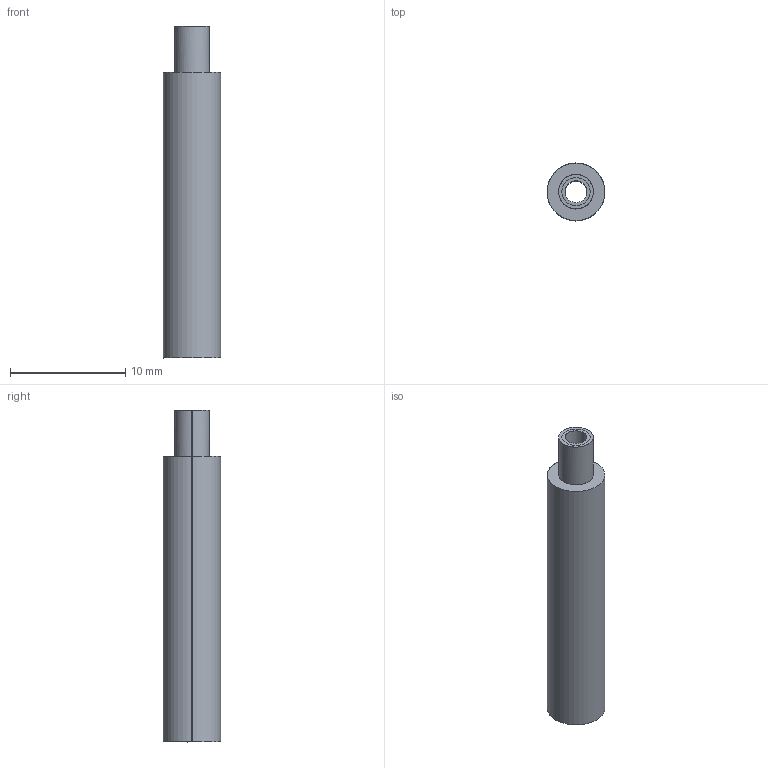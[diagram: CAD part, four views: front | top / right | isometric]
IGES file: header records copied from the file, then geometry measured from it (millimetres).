
Global section: file name: 0353-23-27; native system: VariCAD 2014-1.06; preprocessor: 5.3; author: LVVS3874K00E; organization: Elphe, Inc.; date: 20141021.200615; units: millimetre
Bounding box: 5 x 5 x 28.8 mm (x, y, z)
Surface area: 632.8 mm2 (no closed solid volume)
Topology: 0 solids, 0 shells, 10 faces, 40 edges, 40 vertices
Faces by surface type: revolution 6, bspline 4
